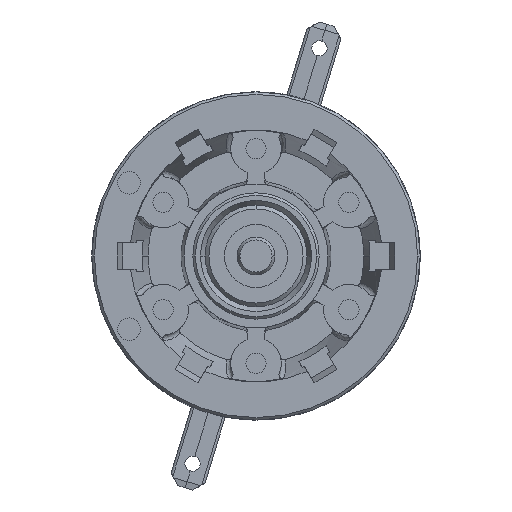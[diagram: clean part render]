
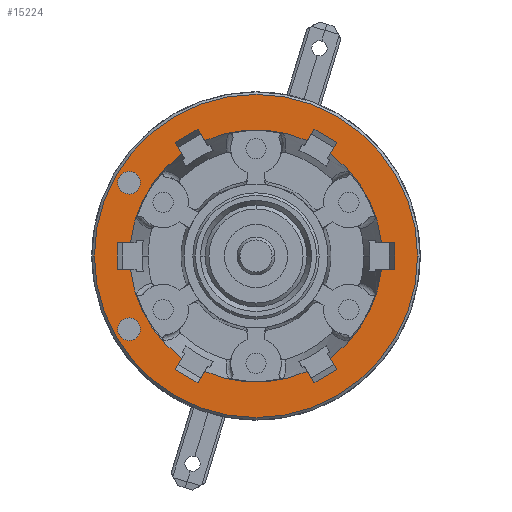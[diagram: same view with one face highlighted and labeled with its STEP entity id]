
A CAD part, left-side view. The second image highlights one B-rep face of the part: STEP entity #15224.
In plain terms, the highlighted planar face has unit normal (-1, 0, 0).
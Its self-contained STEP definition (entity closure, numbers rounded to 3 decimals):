
#5102=CARTESIAN_POINT('',(-1.6,9.945,1.05));
#5112=CARTESIAN_POINT('',(-1.6,0.,0.));
#5113=DIRECTION('',(1.,0.,0.));
#5114=DIRECTION('',(0.,0.994,0.105));
#5115=AXIS2_PLACEMENT_3D('',#5112,#5113,#5114);
#5166=CARTESIAN_POINT('',(-1.6,4.063,9.137));
#5176=CARTESIAN_POINT('',(-1.6,0.,0.));
#5177=DIRECTION('',(1.,0.,0.));
#5178=DIRECTION('',(0.,0.406,0.914));
#5179=AXIS2_PLACEMENT_3D('',#5176,#5177,#5178);
#5230=CARTESIAN_POINT('',(-1.6,-5.882,8.087));
#5240=CARTESIAN_POINT('',(-1.6,0.,0.));
#5241=DIRECTION('',(1.,0.,0.));
#5242=DIRECTION('',(0.,-0.588,0.809));
#5243=AXIS2_PLACEMENT_3D('',#5240,#5241,#5242);
#5304=CARTESIAN_POINT('',(-1.6,0.,0.));
#5305=DIRECTION('',(-1.,0.,0.));
#5306=DIRECTION('',(0.,0.994,-0.105));
#5307=AXIS2_PLACEMENT_3D('',#5304,#5305,#5306);
#5317=CARTESIAN_POINT('',(-1.6,9.945,-1.05));
#5444=CARTESIAN_POINT('',(-1.6,-9.945,-1.05));
#5454=CARTESIAN_POINT('',(-1.6,0.,0.));
#5455=DIRECTION('',(-1.,0.,0.));
#5456=DIRECTION('',(0.,-0.588,-0.809));
#5457=AXIS2_PLACEMENT_3D('',#5454,#5455,#5456);
#5508=CARTESIAN_POINT('',(-1.6,-4.063,-9.137));
#5518=CARTESIAN_POINT('',(-1.6,0.,0.));
#5519=DIRECTION('',(-1.,0.,0.));
#5520=DIRECTION('',(0.,0.406,-0.914));
#5521=AXIS2_PLACEMENT_3D('',#5518,#5519,#5520);
#5589=CARTESIAN_POINT('',(-1.6,0.,0.));
#5590=DIRECTION('',(-1.,0.,0.));
#5591=DIRECTION('',(0.,1.,0.));
#5592=AXIS2_PLACEMENT_3D('',#5589,#5590,#5591);
#5597=CARTESIAN_POINT('',(-1.6,0.,0.));
#5598=DIRECTION('',(-1.,0.,0.));
#5599=DIRECTION('',(0.,-1.,0.));
#5600=AXIS2_PLACEMENT_3D('',#5597,#5598,#5599);
#5605=CARTESIAN_POINT('',(-1.6,10.05,5.8));
#5606=DIRECTION('',(-1.,0.,0.));
#5607=DIRECTION('',(0.,0.,1.));
#5608=AXIS2_PLACEMENT_3D('',#5605,#5606,#5607);
#5613=CARTESIAN_POINT('',(-1.6,10.05,5.8));
#5614=DIRECTION('',(-1.,0.,0.));
#5615=DIRECTION('',(0.,0.,-1.));
#5616=AXIS2_PLACEMENT_3D('',#5613,#5614,#5615);
#5621=CARTESIAN_POINT('',(-1.6,10.05,-5.8));
#5622=DIRECTION('',(-1.,0.,0.));
#5623=DIRECTION('',(0.,0.,1.));
#5624=AXIS2_PLACEMENT_3D('',#5621,#5622,#5623);
#5629=CARTESIAN_POINT('',(-1.6,10.05,-5.8));
#5630=DIRECTION('',(-1.,0.,0.));
#5631=DIRECTION('',(0.,0.,-1.));
#5632=AXIS2_PLACEMENT_3D('',#5629,#5630,#5631);
#5637=DIRECTION('',(0.,-0.5,0.866));
#5638=VECTOR('',#5637,1.055);
#5639=CARTESIAN_POINT('',(-1.6,4.591,-10.051));
#5640=LINE('',#5639,#5638);
#5644=DIRECTION('',(0.,-0.5,-0.866));
#5645=VECTOR('',#5644,1.055);
#5646=CARTESIAN_POINT('',(-1.6,-4.063,-9.137));
#5647=LINE('',#5646,#5645);
#5651=DIRECTION('',(0.,0.866,-0.5));
#5652=VECTOR('',#5651,2.1);
#5653=CARTESIAN_POINT('',(-1.6,-6.409,-9.001));
#5654=LINE('',#5653,#5652);
#5658=DIRECTION('',(0.,0.5,0.866));
#5659=VECTOR('',#5658,1.055);
#5660=CARTESIAN_POINT('',(-1.6,-6.409,-9.001));
#5661=LINE('',#5660,#5659);
#5665=DIRECTION('',(0.,-1.,0.));
#5666=VECTOR('',#5665,1.055);
#5667=CARTESIAN_POINT('',(-1.6,-9.945,-1.05));
#5668=LINE('',#5667,#5666);
#5672=DIRECTION('',(0.,0.,-1.));
#5673=VECTOR('',#5672,2.1);
#5674=CARTESIAN_POINT('',(-1.6,-11.,1.05));
#5675=LINE('',#5674,#5673);
#5679=DIRECTION('',(0.,1.,0.));
#5680=VECTOR('',#5679,1.055);
#5681=CARTESIAN_POINT('',(-1.6,-11.,1.05));
#5682=LINE('',#5681,#5680);
#5686=DIRECTION('',(0.,-0.5,0.866));
#5687=VECTOR('',#5686,1.055);
#5688=CARTESIAN_POINT('',(-1.6,-5.882,8.087));
#5689=LINE('',#5688,#5687);
#5693=DIRECTION('',(0.,-0.866,-0.5));
#5694=VECTOR('',#5693,2.1);
#5695=CARTESIAN_POINT('',(-1.6,-4.591,10.051));
#5696=LINE('',#5695,#5694);
#5700=DIRECTION('',(0.,0.5,-0.866));
#5701=VECTOR('',#5700,1.055);
#5702=CARTESIAN_POINT('',(-1.6,-4.591,10.051));
#5703=LINE('',#5702,#5701);
#5707=DIRECTION('',(0.,0.5,0.866));
#5708=VECTOR('',#5707,1.055);
#5709=CARTESIAN_POINT('',(-1.6,4.063,9.137));
#5710=LINE('',#5709,#5708);
#5714=DIRECTION('',(0.,-0.866,0.5));
#5715=VECTOR('',#5714,2.1);
#5716=CARTESIAN_POINT('',(-1.6,6.409,9.001));
#5717=LINE('',#5716,#5715);
#5721=DIRECTION('',(0.,-0.5,-0.866));
#5722=VECTOR('',#5721,1.055);
#5723=CARTESIAN_POINT('',(-1.6,6.409,9.001));
#5724=LINE('',#5723,#5722);
#5728=DIRECTION('',(0.,1.,0.));
#5729=VECTOR('',#5728,1.055);
#5730=CARTESIAN_POINT('',(-1.6,9.945,1.05));
#5731=LINE('',#5730,#5729);
#5735=DIRECTION('',(0.,0.,1.));
#5736=VECTOR('',#5735,2.1);
#5737=CARTESIAN_POINT('',(-1.6,11.,-1.05));
#5738=LINE('',#5737,#5736);
#5742=DIRECTION('',(0.,-1.,0.));
#5743=VECTOR('',#5742,1.055);
#5744=CARTESIAN_POINT('',(-1.6,11.,-1.05));
#5745=LINE('',#5744,#5743);
#5749=DIRECTION('',(0.,0.5,-0.866));
#5750=VECTOR('',#5749,1.055);
#5751=CARTESIAN_POINT('',(-1.6,5.882,-8.087));
#5752=LINE('',#5751,#5750);
#5756=DIRECTION('',(0.,0.866,0.5));
#5757=VECTOR('',#5756,2.1);
#5758=CARTESIAN_POINT('',(-1.6,4.591,-10.051));
#5759=LINE('',#5758,#5757);
#9132=CARTESIAN_POINT('',(-1.6,12.8,0.));
#9133=CARTESIAN_POINT('',(-1.6,-12.8,0.));
#9134=VERTEX_POINT('',#9132);
#9135=VERTEX_POINT('',#9133);
#9148=CARTESIAN_POINT('',(-1.6,10.05,6.7));
#9149=CARTESIAN_POINT('',(-1.6,10.05,4.9));
#9150=VERTEX_POINT('',#9148);
#9151=VERTEX_POINT('',#9149);
#9152=CARTESIAN_POINT('',(-1.6,10.05,-4.9));
#9153=CARTESIAN_POINT('',(-1.6,10.05,-6.7));
#9154=VERTEX_POINT('',#9152);
#9155=VERTEX_POINT('',#9153);
#9382=VERTEX_POINT('',#5102);
#9383=VERTEX_POINT('',#5317);
#9384=CARTESIAN_POINT('',(-1.6,11.,-1.05));
#9385=VERTEX_POINT('',#9384);
#9386=CARTESIAN_POINT('',(-1.6,11.,1.05));
#9387=VERTEX_POINT('',#9386);
#9472=CARTESIAN_POINT('',(-1.6,5.882,8.087));
#9473=VERTEX_POINT('',#9472);
#9478=VERTEX_POINT('',#5166);
#9479=CARTESIAN_POINT('',(-1.6,6.409,9.001));
#9480=VERTEX_POINT('',#9479);
#9481=CARTESIAN_POINT('',(-1.6,4.591,10.051));
#9482=VERTEX_POINT('',#9481);
#9487=CARTESIAN_POINT('',(-1.6,-4.063,9.137));
#9488=VERTEX_POINT('',#9487);
#9493=VERTEX_POINT('',#5230);
#9494=CARTESIAN_POINT('',(-1.6,-4.591,10.051));
#9495=VERTEX_POINT('',#9494);
#9496=CARTESIAN_POINT('',(-1.6,-6.409,9.001));
#9497=VERTEX_POINT('',#9496);
#9504=CARTESIAN_POINT('',(-1.6,-9.945,1.05));
#9505=VERTEX_POINT('',#9504);
#9514=VERTEX_POINT('',#5444);
#9515=CARTESIAN_POINT('',(-1.6,-11.,1.05));
#9516=VERTEX_POINT('',#9515);
#9517=CARTESIAN_POINT('',(-1.6,-11.,-1.05));
#9518=VERTEX_POINT('',#9517);
#9523=CARTESIAN_POINT('',(-1.6,-5.882,-8.087));
#9524=VERTEX_POINT('',#9523);
#9529=VERTEX_POINT('',#5508);
#9530=CARTESIAN_POINT('',(-1.6,-6.409,-9.001));
#9531=VERTEX_POINT('',#9530);
#9532=CARTESIAN_POINT('',(-1.6,-4.591,-10.051));
#9533=VERTEX_POINT('',#9532);
#9538=CARTESIAN_POINT('',(-1.6,5.882,-8.087));
#9539=VERTEX_POINT('',#9538);
#9540=CARTESIAN_POINT('',(-1.6,4.063,-9.137));
#9541=VERTEX_POINT('',#9540);
#9546=CARTESIAN_POINT('',(-1.6,4.591,-10.051));
#9547=VERTEX_POINT('',#9546);
#9548=CARTESIAN_POINT('',(-1.6,6.409,-9.001));
#9549=VERTEX_POINT('',#9548);
#15159=CARTESIAN_POINT('',(-1.6,0.,0.));
#15160=DIRECTION('',(1.,0.,0.));
#15161=DIRECTION('',(0.,-1.,0.));
#15162=AXIS2_PLACEMENT_3D('',#15159,#15160,#15161);
#15163=PLANE('',#15162);
#15165=ORIENTED_EDGE('',*,*,#15164,.F.);
#15167=ORIENTED_EDGE('',*,*,#15166,.F.);
#15168=EDGE_LOOP('',(#15165,#15167));
#15169=FACE_OUTER_BOUND('',#15168,.F.);
#15171=ORIENTED_EDGE('',*,*,#15170,.T.);
#15173=ORIENTED_EDGE('',*,*,#15172,.T.);
#15174=EDGE_LOOP('',(#15171,#15173));
#15175=FACE_BOUND('',#15174,.F.);
#15177=ORIENTED_EDGE('',*,*,#15176,.T.);
#15179=ORIENTED_EDGE('',*,*,#15178,.T.);
#15180=EDGE_LOOP('',(#15177,#15179));
#15181=FACE_BOUND('',#15180,.F.);
#15182=ORIENTED_EDGE('',*,*,#15126,.T.);
#15183=ORIENTED_EDGE('',*,*,#15049,.T.);
#15185=ORIENTED_EDGE('',*,*,#15184,.T.);
#15187=ORIENTED_EDGE('',*,*,#15186,.F.);
#15189=ORIENTED_EDGE('',*,*,#15188,.T.);
#15190=ORIENTED_EDGE('',*,*,#15033,.T.);
#15192=ORIENTED_EDGE('',*,*,#15191,.T.);
#15194=ORIENTED_EDGE('',*,*,#15193,.F.);
#15196=ORIENTED_EDGE('',*,*,#15195,.T.);
#15197=ORIENTED_EDGE('',*,*,#14959,.F.);
#15199=ORIENTED_EDGE('',*,*,#15198,.T.);
#15201=ORIENTED_EDGE('',*,*,#15200,.F.);
#15203=ORIENTED_EDGE('',*,*,#15202,.T.);
#15204=ORIENTED_EDGE('',*,*,#14943,.F.);
#15206=ORIENTED_EDGE('',*,*,#15205,.T.);
#15208=ORIENTED_EDGE('',*,*,#15207,.F.);
#15210=ORIENTED_EDGE('',*,*,#15209,.T.);
#15211=ORIENTED_EDGE('',*,*,#14927,.F.);
#15213=ORIENTED_EDGE('',*,*,#15212,.T.);
#15215=ORIENTED_EDGE('',*,*,#15214,.F.);
#15217=ORIENTED_EDGE('',*,*,#15216,.T.);
#15218=ORIENTED_EDGE('',*,*,#14988,.T.);
#15220=ORIENTED_EDGE('',*,*,#15219,.T.);
#15221=ORIENTED_EDGE('',*,*,#15143,.F.);
#15222=EDGE_LOOP('',(#15182,#15183,#15185,#15187,#15189,#15190,#15192,#15194,
#15196,#15197,#15199,#15201,#15203,#15204,#15206,#15208,#15210,#15211,#15213,
#15215,#15217,#15218,#15220,#15221));
#15223=FACE_BOUND('',#15222,.F.);
#15224=ADVANCED_FACE('',(#15169,#15175,#15181,#15223),#15163,.F.);
#5116=CIRCLE('',#5115,10.);
#5180=CIRCLE('',#5179,10.);
#5244=CIRCLE('',#5243,10.);
#5308=CIRCLE('',#5307,10.);
#5458=CIRCLE('',#5457,10.);
#5522=CIRCLE('',#5521,10.);
#5593=CIRCLE('',#5592,12.8);
#5601=CIRCLE('',#5600,12.8);
#5609=CIRCLE('',#5608,0.9);
#5617=CIRCLE('',#5616,0.9);
#5625=CIRCLE('',#5624,0.9);
#5633=CIRCLE('',#5632,0.9);
#14927=EDGE_CURVE('',#9382,#9473,#5116,.T.);
#14943=EDGE_CURVE('',#9478,#9488,#5180,.T.);
#14959=EDGE_CURVE('',#9493,#9505,#5244,.T.);
#14988=EDGE_CURVE('',#9383,#9539,#5308,.T.);
#15033=EDGE_CURVE('',#9524,#9514,#5458,.T.);
#15049=EDGE_CURVE('',#9541,#9529,#5522,.T.);
#15126=EDGE_CURVE('',#9547,#9541,#5640,.T.);
#15143=EDGE_CURVE('',#9547,#9549,#5759,.T.);
#15164=EDGE_CURVE('',#9134,#9135,#5593,.T.);
#15166=EDGE_CURVE('',#9135,#9134,#5601,.T.);
#15170=EDGE_CURVE('',#9150,#9151,#5609,.T.);
#15172=EDGE_CURVE('',#9151,#9150,#5617,.T.);
#15176=EDGE_CURVE('',#9154,#9155,#5625,.T.);
#15178=EDGE_CURVE('',#9155,#9154,#5633,.T.);
#15184=EDGE_CURVE('',#9529,#9533,#5647,.T.);
#15186=EDGE_CURVE('',#9531,#9533,#5654,.T.);
#15188=EDGE_CURVE('',#9531,#9524,#5661,.T.);
#15191=EDGE_CURVE('',#9514,#9518,#5668,.T.);
#15193=EDGE_CURVE('',#9516,#9518,#5675,.T.);
#15195=EDGE_CURVE('',#9516,#9505,#5682,.T.);
#15198=EDGE_CURVE('',#9493,#9497,#5689,.T.);
#15200=EDGE_CURVE('',#9495,#9497,#5696,.T.);
#15202=EDGE_CURVE('',#9495,#9488,#5703,.T.);
#15205=EDGE_CURVE('',#9478,#9482,#5710,.T.);
#15207=EDGE_CURVE('',#9480,#9482,#5717,.T.);
#15209=EDGE_CURVE('',#9480,#9473,#5724,.T.);
#15212=EDGE_CURVE('',#9382,#9387,#5731,.T.);
#15214=EDGE_CURVE('',#9385,#9387,#5738,.T.);
#15216=EDGE_CURVE('',#9385,#9383,#5745,.T.);
#15219=EDGE_CURVE('',#9539,#9549,#5752,.T.);
